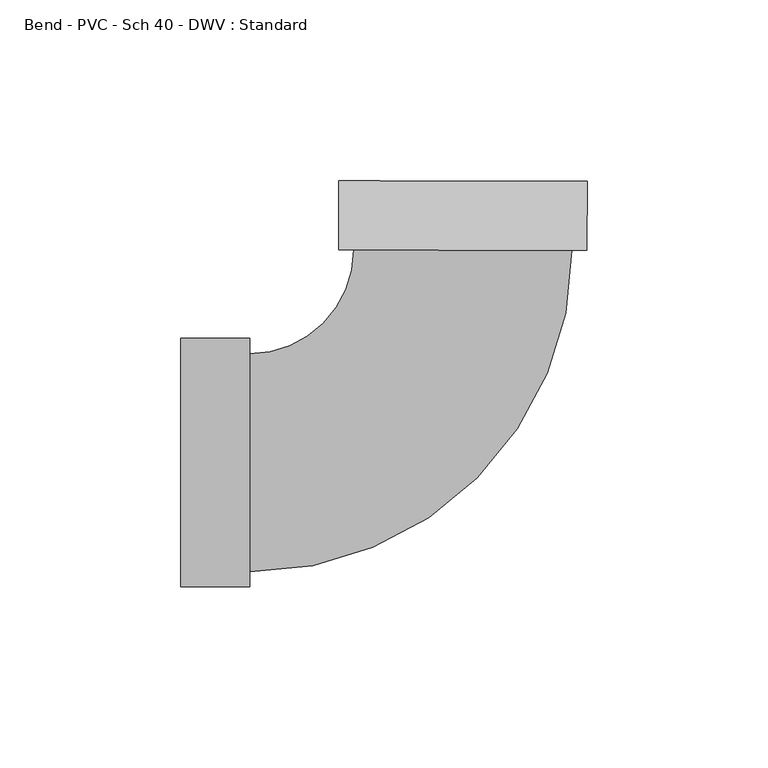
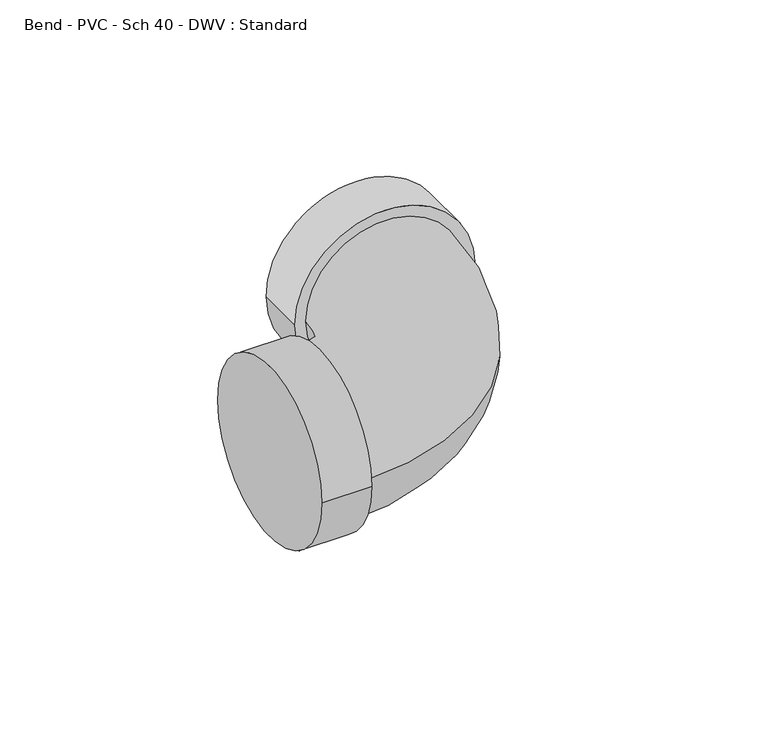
"""IFC4 building model written with IfcOpenShell, lengths in millimetres: pipe fitting geometry, Bend - PVC - Sch 40 - DWV : Standard."""

from ifc_helpers import new_model, si_unit, point, frame, origin, place, context, project, spatial, circle_curve, ellipse_curve, trimmed, source, transform, mapped, element, save
from ifc_brep_helpers import plane_surface, cylinder_surface, revolved_surface, advanced_brep


def bend_pvc_sch_40_dwv_standard_47385f67(model_context):
    return source(origin(), model_context, "Body", "AdvancedBrep", [
        advanced_brep(
        [(-77.8002, -34.3154, 0.0), (-77.8002, 34.3154, 0.0), (-58.7502, -34.3154, 0.0), (-58.7502, 34.3154, 0.0), (-58.7502, -30.1625, 0.0), (-58.7502, 30.1625, 0.0), (-30.0676809, 58.7987838, 0.0), (30.2572406, 58.7014633, 0.0), (34.4101352, 58.6947636, 0.0), (-34.2205755, 58.8054835, 0.0), (34.4408679, 77.7447388, 0.0), (-34.1898427, 77.8554587, 0.0)],
        [
            (0, 1, circle_curve(frame((-77.8002, 0.0, 0.0), z_axis=(-1.0, 0.0, 0.0), x_axis=(0.0, 1.0, 0.0)), 34.3154)),
            (1, 0, circle_curve(frame((-77.8002, 0.0, 0.0), z_axis=(-1.0, 0.0, 0.0), x_axis=(0.0, 1.0, 0.0)), 34.3154)),
            (2, 3, circle_curve(frame((-58.7502, 0.0, 0.0), z_axis=(1.0, 0.0, 0.0), x_axis=(0.0, 1.0, 0.0)), 34.3154)),
            (3, 2, circle_curve(frame((-58.7502, 0.0, 0.0), z_axis=(1.0, 0.0, 0.0), x_axis=(0.0, 1.0, 0.0)), 34.3154)),
            (4, 5, circle_curve(frame((-58.7502, 0.0, 0.0), z_axis=(-1.0, 0.0, 0.0), x_axis=(0.0, 1.0, 0.0)), 30.1625)),
            (5, 4, circle_curve(frame((-58.7502, 0.0, 0.0), z_axis=(-1.0, 0.0, 0.0), x_axis=(0.0, 1.0, 0.0)), 30.1625)),
            (0, 2),
            (3, 1),
            (6, 5, circle_curve(frame((-58.7502, 58.8450564, 0.0), z_axis=(0.0, 0.0, -1.0), x_axis=(0.0, -1.0, 0.0)), 28.6825564)),
            (4, 7, circle_curve(frame((-58.7502, 58.8450564, 0.0), z_axis=(0.0, 0.0, 1.0), x_axis=(0.0, -1.0, 0.0)), 89.0075564)),
            (7, 6, circle_curve(frame((0.0947798, 58.7501235, 0.0), z_axis=(-0.0016132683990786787, -0.9999986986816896, 0.0), x_axis=(-0.9999986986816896, 0.0016132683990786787, 0.0)), 30.1625)),
            (6, 7, circle_curve(frame((0.0947798, 58.7501235, 0.0), z_axis=(-0.0016132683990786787, -0.9999986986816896, 0.0), x_axis=(-0.9999986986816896, 0.0016132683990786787, 0.0)), 30.1625)),
            (8, 9, circle_curve(frame((0.0947798, 58.7501235, 0.0), z_axis=(-0.001613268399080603, -0.9999986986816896, 0.0), x_axis=(-0.9999986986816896, 0.001613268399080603, 0.0)), 34.3154)),
            (9, 8, circle_curve(frame((0.0947798, 58.7501235, 0.0), z_axis=(-0.001613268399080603, -0.9999986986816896, 0.0), x_axis=(-0.9999986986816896, 0.001613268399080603, 0.0)), 34.3154)),
            (10, 11, circle_curve(frame((0.1255126, 77.8000988, 0.0), z_axis=(0.001613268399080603, 0.9999986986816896, 0.0), x_axis=(-0.9999986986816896, 0.001613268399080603, 0.0)), 34.3154)),
            (11, 10, circle_curve(frame((0.1255126, 77.8000988, 0.0), z_axis=(0.001613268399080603, 0.9999986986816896, 0.0), x_axis=(-0.9999986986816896, 0.001613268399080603, 0.0)), 34.3154)),
            (8, 10),
            (11, 9),
        ],
        [
            plane_surface(frame((-77.8002, 0.0, 0.0), z_axis=(-1.0, 0.0, 0.0), x_axis=(0.0, 0.0, 1.0))),
            plane_surface(frame((-58.7502, 0.0, 0.0), z_axis=(1.0, 0.0, 0.0), x_axis=(0.0, 0.0, 1.0))),
            cylinder_surface(frame((-77.8002, 0.0, 0.0), z_axis=(-1.0, 0.0, 0.0), x_axis=(0.0, 1.0, 0.0)), 34.3154),
            revolved_surface(trimmed(ellipse_curve(frame((-58.7502, 0.0, 0.0), z_axis=(-1.0, 0.0, 0.0), x_axis=(0.0, 1.0, 0.0)), 30.1625, 30.1625), [point((-58.7502, -30.1625, 0.0))], [point((-58.7502, 30.1625, 0.0))], True, "CARTESIAN"), (-58.7502, 58.8450564, 0.0), (0.0, 0.0, 1.0)),
            revolved_surface(trimmed(ellipse_curve(frame((-58.7502, 0.0, 0.0), z_axis=(-1.0, 0.0, 0.0), x_axis=(0.0, 1.0, 0.0)), 30.1625, 30.1625), [point((-58.7502, 30.1625, 0.0))], [point((-58.7502, -30.1625, 0.0))], True, "CARTESIAN"), (-58.7502, 58.8450564, 0.0), (0.0, 0.0, 1.0)),
            plane_surface(frame((0.0947798, 58.7501235, 0.0), z_axis=(-0.001613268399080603, -0.9999986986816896, 0.0), x_axis=(0.0, 0.0, 1.0))),
            plane_surface(frame((0.1255126, 77.8000988, 0.0), z_axis=(0.001613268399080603, 0.9999986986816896, 0.0), x_axis=(0.0, 0.0, 1.0))),
            cylinder_surface(frame((0.0947798, 58.7501235, 0.0), z_axis=(-0.001613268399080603, -0.9999986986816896, 0.0), x_axis=(-0.9999986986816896, 0.001613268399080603, 0.0)), 34.3154),
        ],
        [
            (0, [[1, 2]]),
            (1, [[3, 4], [5, 6]]),
            (2, [[-1, 7, -4, 8]]),
            (2, [[-2, -8, -3, -7]]),
            (3, [[9, -5, 10, 11]]),
            (4, [[-9, 12, -10, -6]]),
            (5, [[13, 14], [-11, -12]]),
            (6, [[15, 16]]),
            (7, [[-13, 17, -16, 18]]),
            (7, [[-14, -18, -15, -17]]),
        ],
    ),
    ])


if __name__ == "__main__":
    model = new_model("IFC4")
    model_context = context("Model", 3, world=origin())
    ifc_project = project(units=[si_unit("LENGTHUNIT", "METRE", prefix="MILLI")], contexts=[model_context])
    site = spatial("IfcSite", under=ifc_project)
    building = spatial("IfcBuilding", under=site)
    placement = place(None, origin())
    bend_pvc_sch_40_dwv_standard_shape = bend_pvc_sch_40_dwv_standard_47385f67(model_context)
    element("IfcPipeFitting", 1, ObjectType="Bend - PVC - Sch 40 - DWV : Standard", at=placement, inside=building, context=model_context, shape_type="MappedRepresentation", body=[
        mapped(bend_pvc_sch_40_dwv_standard_shape, transform((0.0, 0.0, 0.0), x_axis=(1.0, 0.0, 0.0), y_axis=(0.0, 1.0, 0.0), z_axis=(0.0, 0.0, 1.0))),
    ])
    save(model, "model.ifc")
